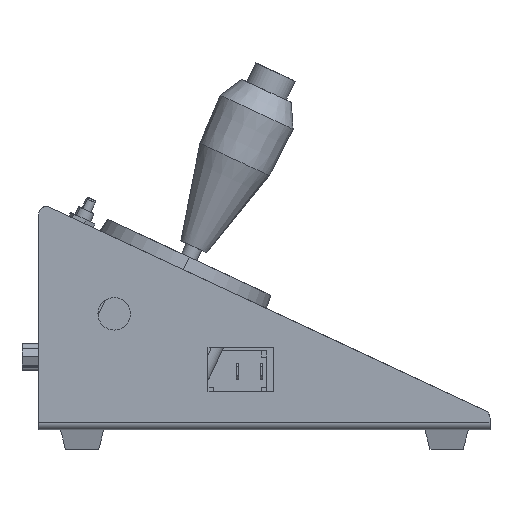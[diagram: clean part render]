
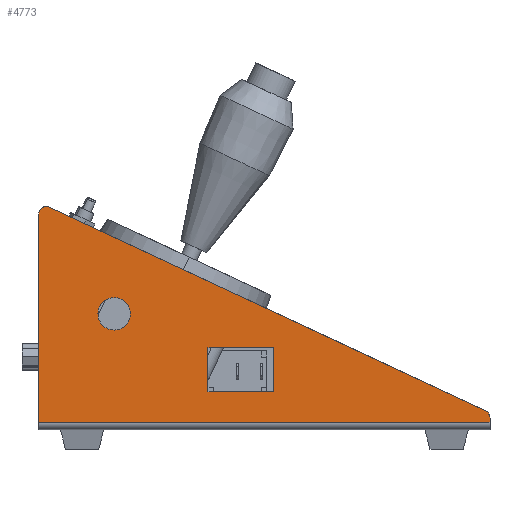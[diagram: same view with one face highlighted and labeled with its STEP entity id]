
A CAD part, left-side view. The second image highlights one B-rep face of the part: STEP entity #4773.
In plain terms, the highlighted planar face has unit normal (-1, 0, 0).
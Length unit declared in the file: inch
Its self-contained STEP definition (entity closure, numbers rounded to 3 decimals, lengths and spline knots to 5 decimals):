
#163 = DIRECTION ( 'NONE',  ( 0., 1., 0. ) ) ;
#1732 = VECTOR ( 'NONE', #35851, 39.37008 ) ;
#1775 = CARTESIAN_POINT ( 'NONE',  ( -0.048, -0.87, 1.28937 ) ) ;
#2064 = CARTESIAN_POINT ( 'NONE',  ( -0.048, -5.198, 0.03937 ) ) ;
#2131 = DIRECTION ( 'NONE',  ( -1., 0., 0. ) ) ;
#3410 = VERTEX_POINT ( 'NONE', #58385 ) ;
#4107 = VERTEX_POINT ( 'NONE', #9206 ) ;
#4773 = ADVANCED_FACE ( 'NONE', ( #37653, #19180, #38563 ), #33044, .F. ) ;
#5759 = ORIENTED_EDGE ( 'NONE', *, *, #58233, .T. ) ;
#6153 = DIRECTION ( 'NONE',  ( 1., 0., 0. ) ) ;
#6923 = DIRECTION ( 'NONE',  ( 1., 0., 0. ) ) ;
#7159 = VERTEX_POINT ( 'NONE', #19823 ) ;
#7173 = CARTESIAN_POINT ( 'NONE',  ( -0.048, -1.95, 0.89937 ) ) ;
#7197 = CARTESIAN_POINT ( 'NONE',  ( -0.048, -1.95, 0.89937 ) ) ;
#7539 = DIRECTION ( 'NONE',  ( 0., -0.906, -0.423 ) ) ;
#8167 = ORIENTED_EDGE ( 'NONE', *, *, #47261, .F. ) ;
#8765 = DIRECTION ( 'NONE',  ( 0., 0., -1. ) ) ;
#9137 = CARTESIAN_POINT ( 'NONE',  ( -0.048, -1.95, 0.38937 ) ) ;
#9206 = CARTESIAN_POINT ( 'NONE',  ( -0.048, 0., 0.03937 ) ) ;
#10277 = CIRCLE ( 'NONE', #33866, 0.087 ) ;
#10861 = ORIENTED_EDGE ( 'NONE', *, *, #11606, .T. ) ;
#11265 = LINE ( 'NONE', #49778, #39251 ) ;
#11606 = EDGE_CURVE ( 'NONE', #31020, #37347, #10277, .T. ) ;
#12135 = AXIS2_PLACEMENT_3D ( 'NONE', #40543, #6923, #45179 ) ;
#13391 = LINE ( 'NONE', #28835, #43316 ) ;
#13455 = VERTEX_POINT ( 'NONE', #2064 ) ;
#13664 = CARTESIAN_POINT ( 'NONE',  ( -0.048, -0.12377, 2.51748 ) ) ;
#14311 = LINE ( 'NONE', #51613, #18834 ) ;
#14538 = VECTOR ( 'NONE', #15462, 39.37008 ) ;
#15462 = DIRECTION ( 'NONE',  ( 0., 1., 0. ) ) ;
#16197 = CARTESIAN_POINT ( 'NONE',  ( -0.048, 0., 2.43864 ) ) ;
#16474 = LINE ( 'NONE', #7197, #45535 ) ;
#17067 = CIRCLE ( 'NONE', #12135, 0.1875 ) ;
#17580 = ORIENTED_EDGE ( 'NONE', *, *, #43944, .T. ) ;
#18660 = VERTEX_POINT ( 'NONE', #53002 ) ;
#18834 = VECTOR ( 'NONE', #42343, 39.37008 ) ;
#19180 = FACE_OUTER_BOUND ( 'NONE', #27161, .T. ) ;
#19823 = CARTESIAN_POINT ( 'NONE',  ( -0.048, -1.95, 0.89937 ) ) ;
#20093 = EDGE_LOOP ( 'NONE', ( #5759, #29956, #38643, #38275 ) ) ;
#23236 = VECTOR ( 'NONE', #163, 39.37008 ) ;
#24370 = DIRECTION ( 'NONE',  ( 1., 0., 0. ) ) ;
#25449 = CARTESIAN_POINT ( 'NONE',  ( -0.048, -0.87, 1.47687 ) ) ;
#25799 = VECTOR ( 'NONE', #26054, 39.37008 ) ;
#26054 = DIRECTION ( 'NONE',  ( 0., -1., 0. ) ) ;
#27161 = EDGE_LOOP ( 'NONE', ( #28467, #10861, #54557, #8167, #35498, #27705 ) ) ;
#27343 = EDGE_CURVE ( 'NONE', #18660, #7159, #16474, .T. ) ;
#27705 = ORIENTED_EDGE ( 'NONE', *, *, #33360, .T. ) ;
#28467 = ORIENTED_EDGE ( 'NONE', *, *, #47652, .F. ) ;
#28652 = DIRECTION ( 'NONE',  ( 0., 0., -1. ) ) ;
#28835 = CARTESIAN_POINT ( 'NONE',  ( -0.048, -5.198, 0.15133 ) ) ;
#29956 = ORIENTED_EDGE ( 'NONE', *, *, #57435, .T. ) ;
#30554 = CIRCLE ( 'NONE', #38414, 0.1 ) ;
#31020 = VERTEX_POINT ( 'NONE', #13664 ) ;
#33044 = PLANE ( 'NONE',  #35737 ) ;
#33360 = EDGE_CURVE ( 'NONE', #54109, #56235, #30554, .T. ) ;
#33866 = AXIS2_PLACEMENT_3D ( 'NONE', #46585, #2131, #34536 ) ;
#34045 = CARTESIAN_POINT ( 'NONE',  ( -0.048, -5.14026, 0.17826 ) ) ;
#34536 = DIRECTION ( 'NONE',  ( 0., 0., -1. ) ) ;
#35498 = ORIENTED_EDGE ( 'NONE', *, *, #49106, .F. ) ;
#35737 = AXIS2_PLACEMENT_3D ( 'NONE', #58554, #6153, #49339 ) ;
#35851 = DIRECTION ( 'NONE',  ( 0., 0., 1. ) ) ;
#36159 = LINE ( 'NONE', #59577, #1732 ) ;
#36425 = CARTESIAN_POINT ( 'NONE',  ( -0.048, -0.87, 1.10187 ) ) ;
#37347 = VERTEX_POINT ( 'NONE', #16197 ) ;
#37653 = FACE_BOUND ( 'NONE', #42688, .T. ) ;
#38275 = ORIENTED_EDGE ( 'NONE', *, *, #27343, .T. ) ;
#38414 = AXIS2_PLACEMENT_3D ( 'NONE', #51680, #47363, #28652 ) ;
#38563 = FACE_BOUND ( 'NONE', #20093, .T. ) ;
#38643 = ORIENTED_EDGE ( 'NONE', *, *, #42419, .T. ) ;
#39251 = VECTOR ( 'NONE', #7539, 39.37008 ) ;
#40543 = CARTESIAN_POINT ( 'NONE',  ( -0.048, -0.87, 1.28937 ) ) ;
#42343 = DIRECTION ( 'NONE',  ( 0., 0., -1. ) ) ;
#42419 = EDGE_CURVE ( 'NONE', #53871, #18660, #51380, .T. ) ;
#42688 = EDGE_LOOP ( 'NONE', ( #17580, #59216 ) ) ;
#43316 = VECTOR ( 'NONE', #8765, 39.37008 ) ;
#43485 = EDGE_CURVE ( 'NONE', #45501, #56233, #58321, .T. ) ;
#43944 = EDGE_CURVE ( 'NONE', #56233, #45501, #17067, .T. ) ;
#44589 = CARTESIAN_POINT ( 'NONE',  ( -0.048, -5.198, 0.08762 ) ) ;
#45179 = DIRECTION ( 'NONE',  ( 0., 0., -1. ) ) ;
#45501 = VERTEX_POINT ( 'NONE', #36425 ) ;
#45535 = VECTOR ( 'NONE', #45753, 39.37008 ) ;
#45753 = DIRECTION ( 'NONE',  ( 0., 0., 1. ) ) ;
#46541 = AXIS2_PLACEMENT_3D ( 'NONE', #1775, #24370, #57261 ) ;
#46585 = CARTESIAN_POINT ( 'NONE',  ( -0.048, -0.087, 2.43864 ) ) ;
#47261 = EDGE_CURVE ( 'NONE', #13455, #4107, #48149, .T. ) ;
#47363 = DIRECTION ( 'NONE',  ( -1., 0., 0. ) ) ;
#47652 = EDGE_CURVE ( 'NONE', #31020, #56235, #11265, .T. ) ;
#47835 = CARTESIAN_POINT ( 'NONE',  ( -0.048, 0., 0.03937 ) ) ;
#48149 = LINE ( 'NONE', #47835, #14538 ) ;
#49106 = EDGE_CURVE ( 'NONE', #54109, #13455, #13391, .T. ) ;
#49339 = DIRECTION ( 'NONE',  ( 0., 0., -1. ) ) ;
#49426 = LINE ( 'NONE', #7173, #25799 ) ;
#49778 = CARTESIAN_POINT ( 'NONE',  ( -0.048, 0., 2.5752 ) ) ;
#51380 = LINE ( 'NONE', #9137, #23236 ) ;
#51613 = CARTESIAN_POINT ( 'NONE',  ( -0.048, -2.71, 0.89937 ) ) ;
#51680 = CARTESIAN_POINT ( 'NONE',  ( -0.048, -5.098, 0.08762 ) ) ;
#53002 = CARTESIAN_POINT ( 'NONE',  ( -0.048, -1.95, 0.38937 ) ) ;
#53672 = EDGE_CURVE ( 'NONE', #4107, #37347, #36159, .T. ) ;
#53871 = VERTEX_POINT ( 'NONE', #60937 ) ;
#54109 = VERTEX_POINT ( 'NONE', #44589 ) ;
#54557 = ORIENTED_EDGE ( 'NONE', *, *, #53672, .F. ) ;
#56233 = VERTEX_POINT ( 'NONE', #25449 ) ;
#56235 = VERTEX_POINT ( 'NONE', #34045 ) ;
#57261 = DIRECTION ( 'NONE',  ( 0., 0., -1. ) ) ;
#57435 = EDGE_CURVE ( 'NONE', #3410, #53871, #14311, .T. ) ;
#58233 = EDGE_CURVE ( 'NONE', #7159, #3410, #49426, .T. ) ;
#58321 = CIRCLE ( 'NONE', #46541, 0.1875 ) ;
#58385 = CARTESIAN_POINT ( 'NONE',  ( -0.048, -2.71, 0.89937 ) ) ;
#58554 = CARTESIAN_POINT ( 'NONE',  ( -0.048, 0., 2.5752 ) ) ;
#59216 = ORIENTED_EDGE ( 'NONE', *, *, #43485, .T. ) ;
#59577 = CARTESIAN_POINT ( 'NONE',  ( -0.048, 0., -0.0208 ) ) ;
#60937 = CARTESIAN_POINT ( 'NONE',  ( -0.048, -2.71, 0.38937 ) ) ;
